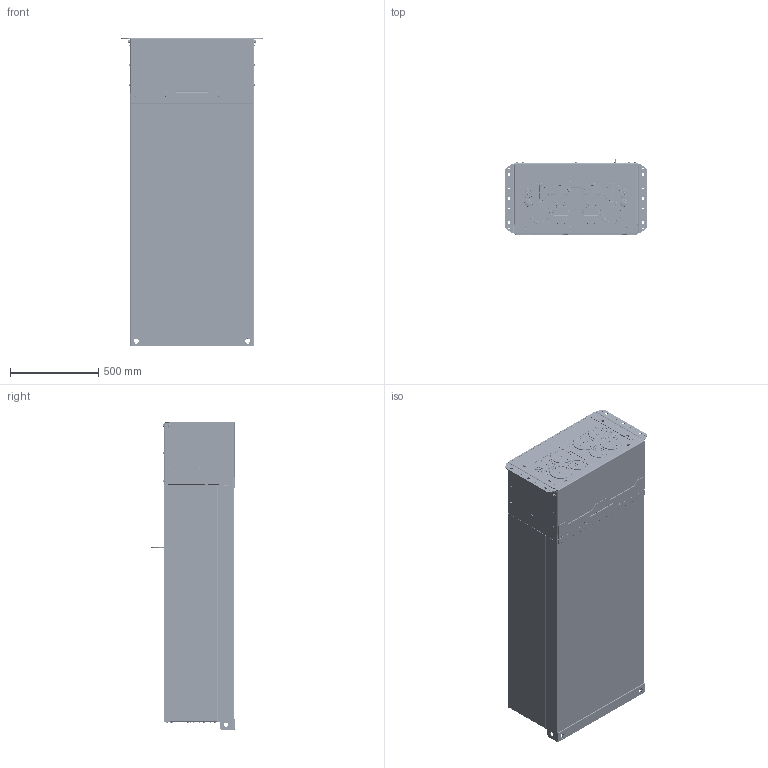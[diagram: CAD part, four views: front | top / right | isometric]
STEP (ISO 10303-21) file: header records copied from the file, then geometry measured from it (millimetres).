
FILE_DESCRIPTION((''),'2;1');
FILE_NAME('VFD-C-H3-PD-3D03_ASM','2020-10-21T10:01:09',('GH.HUANG'),(''),'CREO PARAMETRIC BY PTC INC, 2018500','CREO PARAMETRIC BY PTC INC, 2018500','');
FILE_SCHEMA(('AUTOMOTIVE_DESIGN { 1 0 10303 214 1 1 1 1 }'));
Products named in the file (144): PRT0019; PRT0020; ASM0009_ASM_ASM; PRT0021; PRT0022; ASM0011_ASM_ASM; ASM0010_ASM_ASM; PRT0023; PRT0024; ASM0013_ASM_ASM; ASM0012_ASM_ASM; ASM0008_ASM_ASM; ASM0007_ASM_ASM; PRT0025; PRT0026; ASM0014_ASM_ASM; PRT0027; PRT0028; ASM0017_ASM_ASM; ASM0016_ASM_ASM; PRT0029; ASM0019_ASM_ASM; ASM0018_ASM_ASM; ASM0015_ASM_ASM; PRT0030; PRT0031; ASM0021_ASM_ASM; PRT0032; PRT0033; PRT0034; ASM0022_ASM_ASM; ASM0020_ASM_ASM; PRT0035; PRT0036; PRT0037; ASM0024_ASM_ASM; PRT0038; PRT0039; ASM0025_ASM_ASM; PRT0040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
Assembly tree (409 placements, depth 11):
  VFD-C-H3-PD-3D03_ASM
    ASM0006_ASM_ASM
      ASM0007_ASM_ASM
        ASM0008_ASM_ASM
          ASM0009_ASM_ASM
            PRT0019
            PRT0020  x16
          ASM0010_ASM_ASM
            ASM0011_ASM_ASM
              PRT0021
              PRT0022
          ASM0012_ASM_ASM
            ASM0013_ASM_ASM
              PRT0023
              PRT0024
      ASM0014_ASM_ASM
        PRT0025
        PRT0026  x4
      PRT0027  x4
      ASM0015_ASM_ASM
        ASM0016_ASM_ASM
          ASM0017_ASM_ASM
            PRT0028
        ASM0018_ASM_ASM
          ASM0019_ASM_ASM
            PRT0029
      ASM0020_ASM_ASM
        ASM0021_ASM_ASM
          PRT0030
          PRT0031  x4
        ASM0022_ASM_ASM
          PRT0032
          PRT0033  x2
          PRT0034
      PRT0035  x30
      PRT0036  x14
      ASM0023_ASM_ASM
        ASM0024_ASM_ASM
          PRT0037
        ASM0025_ASM_ASM  x16
          PRT0038
          PRT0039
        ASM0026_ASM_ASM  x16
          PRT0040
        PRT0027  x32
      PRT0041  x2
      PRT0042  x4
      ASM0027_ASM_ASM
        ASM0028_ASM_ASM
          PRT0043
        ASM0029_ASM_ASM
          PRT0044
      ASM0030_ASM_ASM
        ASM0031_ASM_ASM
          PRT0045
      ASM0032_ASM_ASM
        ASM0033_ASM_ASM
          PRT0046
      ASM0034_ASM_ASM  x2
        ASM0035_ASM_ASM
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Bounding box: 800 x 488.05 x 1745.1 mm (x, y, z)
Volume: 14274133.3 mm3; surface area: 12512519.9 mm2
Topology: 369 solids, 520 shells, 24642 faces, 66202 edges, 43423 vertices
Faces by surface type: plane 10511, cylinder 9700, bspline 2179, torus 1011, cone 856, extrusion 255, sphere 130
Entity records: 366759 total; most frequent: CARTESIAN_POINT 130813, DIRECTION 43796, ORIENTED_EDGE 42520, EDGE_CURVE 21260, AXIS2_PLACEMENT_3D 14812, VECTOR 13804, VERTEX_POINT 13713, LINE 13552
